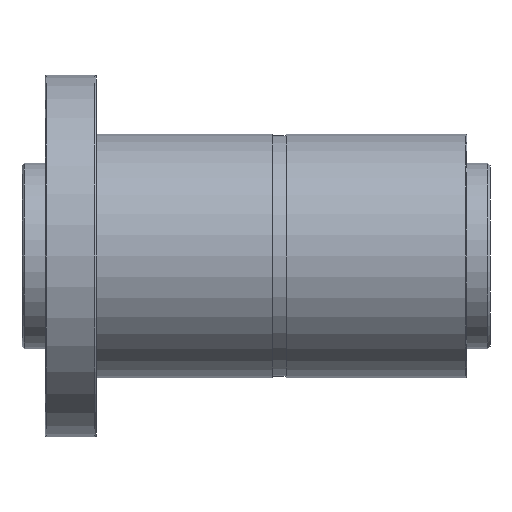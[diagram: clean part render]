
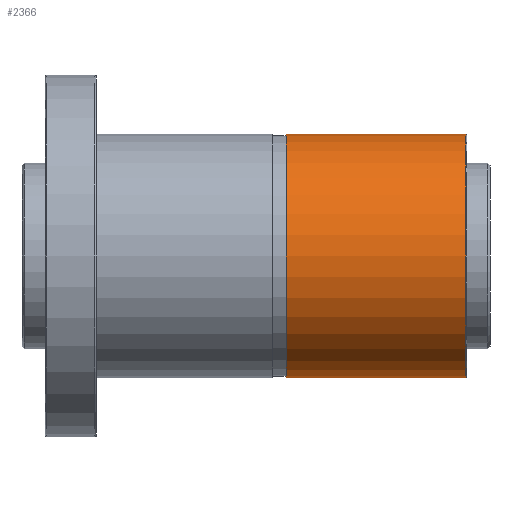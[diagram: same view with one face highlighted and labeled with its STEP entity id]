
A CAD part, front view. The second image highlights one B-rep face of the part: STEP entity #2366.
In plain terms, the highlighted cylindrical face has radius 52.5 mm (diameter 105 mm), a partial arc.
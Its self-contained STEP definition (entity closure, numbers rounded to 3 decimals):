
#195 = CYLINDRICAL_SURFACE ( 'NONE', #260, 52.5 ) ;
#251 = CARTESIAN_POINT ( 'NONE',  ( 182., 0., 52.5 ) ) ;
#260 = AXIS2_PLACEMENT_3D ( 'NONE', #3315, #4019, #1029 ) ;
#330 = CARTESIAN_POINT ( 'NONE',  ( 104., 0., 0. ) ) ;
#373 = DIRECTION ( 'NONE',  ( 1., 0., 0. ) ) ;
#387 = CARTESIAN_POINT ( 'NONE',  ( 181.5, 0., 0. ) ) ;
#609 = LINE ( 'NONE', #3478, #3356 ) ;
#854 = VERTEX_POINT ( 'NONE', #1338 ) ;
#912 = DIRECTION ( 'NONE',  ( -1., 0., 0. ) ) ;
#998 = DIRECTION ( 'NONE',  ( 0., 0., -1. ) ) ;
#1029 = DIRECTION ( 'NONE',  ( 0., 0., 1. ) ) ;
#1112 = ORIENTED_EDGE ( 'NONE', *, *, #3976, .T. ) ;
#1338 = CARTESIAN_POINT ( 'NONE',  ( 104., 0., 52.5 ) ) ;
#1409 = VECTOR ( 'NONE', #912, 1000. ) ;
#1940 = VERTEX_POINT ( 'NONE', #3084 ) ;
#2048 = CIRCLE ( 'NONE', #2579, 52.5 ) ;
#2133 = CARTESIAN_POINT ( 'NONE',  ( 104., 0., -52.5 ) ) ;
#2341 = EDGE_CURVE ( 'NONE', #854, #2502, #2048, .T. ) ;
#2345 = AXIS2_PLACEMENT_3D ( 'NONE', #387, #2369, #2973 ) ;
#2366 = ADVANCED_FACE ( 'NONE', ( #3978 ), #195, .T. ) ;
#2369 = DIRECTION ( 'NONE',  ( -1., 0., 0. ) ) ;
#2502 = VERTEX_POINT ( 'NONE', #2133 ) ;
#2553 = EDGE_CURVE ( 'NONE', #1940, #2502, #609, .T. ) ;
#2579 = AXIS2_PLACEMENT_3D ( 'NONE', #330, #373, #998 ) ;
#2581 = ORIENTED_EDGE ( 'NONE', *, *, #2641, .T. ) ;
#2641 = EDGE_CURVE ( 'NONE', #3596, #854, #4051, .T. ) ;
#2973 = DIRECTION ( 'NONE',  ( 0., 0., -1. ) ) ;
#3084 = CARTESIAN_POINT ( 'NONE',  ( 181.5, 0., -52.5 ) ) ;
#3315 = CARTESIAN_POINT ( 'NONE',  ( 182., 0., 0. ) ) ;
#3356 = VECTOR ( 'NONE', #4143, 1000. ) ;
#3411 = CIRCLE ( 'NONE', #2345, 52.5 ) ;
#3478 = CARTESIAN_POINT ( 'NONE',  ( 182., 0., -52.5 ) ) ;
#3596 = VERTEX_POINT ( 'NONE', #4087 ) ;
#3976 = EDGE_CURVE ( 'NONE', #1940, #3596, #3411, .T. ) ;
#3978 = FACE_OUTER_BOUND ( 'NONE', #4030, .T. ) ;
#4019 = DIRECTION ( 'NONE',  ( -1., 0., 0. ) ) ;
#4030 = EDGE_LOOP ( 'NONE', ( #4216, #1112, #2581, #4114 ) ) ;
#4051 = LINE ( 'NONE', #251, #1409 ) ;
#4087 = CARTESIAN_POINT ( 'NONE',  ( 181.5, 0., 52.5 ) ) ;
#4114 = ORIENTED_EDGE ( 'NONE', *, *, #2341, .T. ) ;
#4143 = DIRECTION ( 'NONE',  ( -1., 0., 0. ) ) ;
#4216 = ORIENTED_EDGE ( 'NONE', *, *, #2553, .F. ) ;
